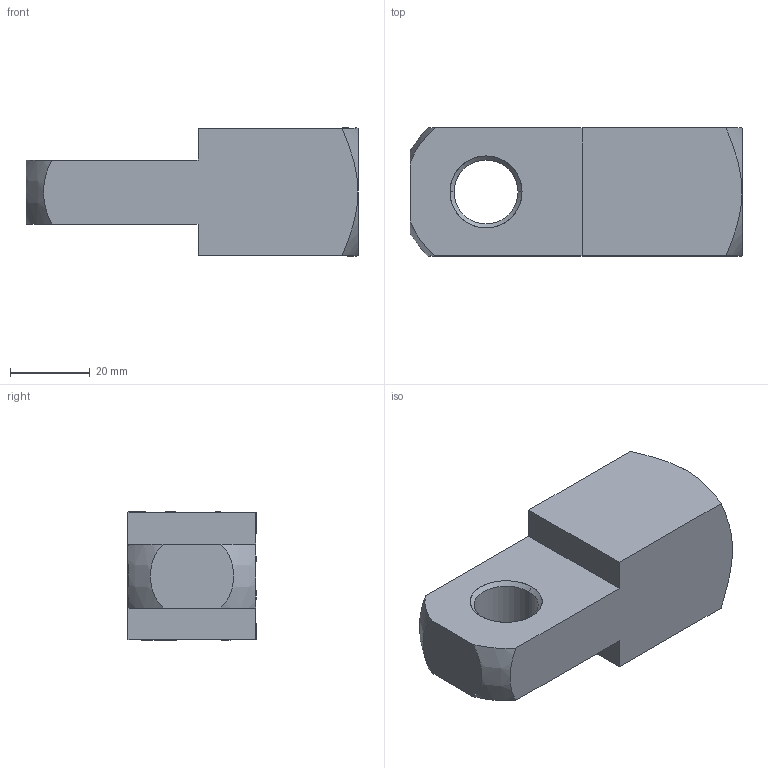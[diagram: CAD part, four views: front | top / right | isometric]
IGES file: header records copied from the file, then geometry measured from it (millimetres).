
Start section: SolidWorks IGES file using analytic representation for surfaces
Global section: file name: C:\Documents and Settings\IANO\My Documents\Wix and Auto CAD Work\CAD Models\Parametric Models\Wix Models\60000\65652_v2\65652_v2_IGES\65652.W0016.igs; native system: SolidWorks 2009; preprocessor: SolidWorks 2009; author: IANO; date: 140122.121002; units: millimetre
Bounding box: 83 x 32 x 32 mm (x, y, z)
Surface area: 13150.6 mm2 (no closed solid volume)
Topology: 0 solids, 0 shells, 31 faces, 504 edges, 502 vertices
Faces by surface type: revolution 18, bspline 13
